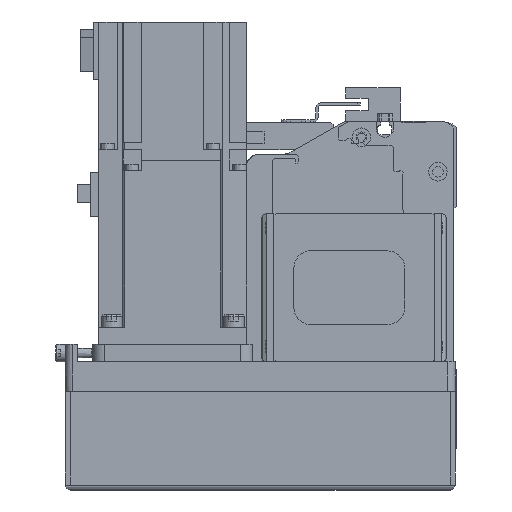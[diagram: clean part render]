
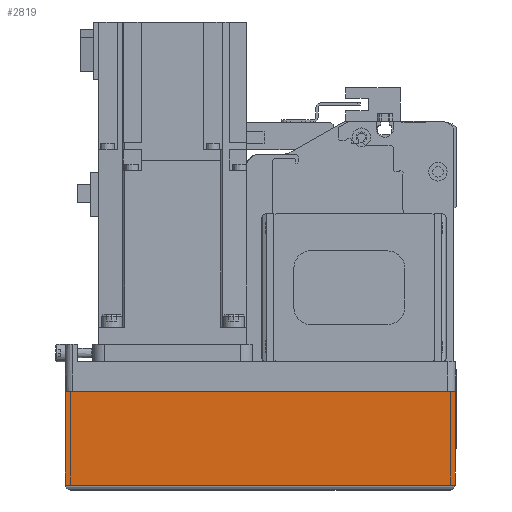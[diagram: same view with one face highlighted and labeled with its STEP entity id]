
A CAD part, left-side view. The second image highlights one B-rep face of the part: STEP entity #2819.
In plain terms, the highlighted planar face has unit normal (-1, 0, 0) as drawn and (0, -1, 0) by its records, which use the part's own axes.
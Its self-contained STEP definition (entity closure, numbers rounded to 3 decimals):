
#2819 = ADVANCED_FACE( '', ( #6229 ), #6230, .T. );
#6229 = FACE_OUTER_BOUND( '', #10105, .T. );
#6230 = PLANE( '', #10106 );
#10105 = EDGE_LOOP( '', ( #18066, #18067, #18068, #18069 ) );
#10106 = AXIS2_PLACEMENT_3D( '', #18070, #18071, #18072 );
#18066 = ORIENTED_EDGE( '', *, *, #24026, .F. );
#18067 = ORIENTED_EDGE( '', *, *, #23767, .F. );
#18068 = ORIENTED_EDGE( '', *, *, #23742, .T. );
#18069 = ORIENTED_EDGE( '', *, *, #24663, .T. );
#18070 = CARTESIAN_POINT( '', ( -158., -39., -12.1 ) );
#18071 = DIRECTION( '', ( 0., -1., 0. ) );
#18072 = DIRECTION( '', ( 0., 0., -1. ) );
#23742 = EDGE_CURVE( '', #29121, #27257, #29123, .T. );
#23767 = EDGE_CURVE( '', #29121, #28899, #29153, .T. );
#24026 = EDGE_CURVE( '', #28899, #29532, #29533, .T. );
#24663 = EDGE_CURVE( '', #27257, #29532, #30362, .T. );
#27257 = VERTEX_POINT( '', #34393 );
#28899 = VERTEX_POINT( '', #36817 );
#29121 = VERTEX_POINT( '', #37169 );
#29123 = LINE( '', #37172, #37173 );
#29153 = LINE( '', #37210, #37211 );
#29532 = VERTEX_POINT( '', #37811 );
#29533 = LINE( '', #37812, #37813 );
#30362 = LINE( '', #39303, #39304 );
#34393 = CARTESIAN_POINT( '', ( -158., -39., -50. ) );
#36817 = CARTESIAN_POINT( '', ( 0., -39., -12.1 ) );
#37169 = CARTESIAN_POINT( '', ( -158., -39., -12.1 ) );
#37172 = CARTESIAN_POINT( '', ( -158., -39., -12.1 ) );
#37173 = VECTOR( '', #43430, 1000. );
#37210 = CARTESIAN_POINT( '', ( -158., -39., -12.1 ) );
#37211 = VECTOR( '', #43459, 1000. );
#37811 = CARTESIAN_POINT( '', ( 0., -39., -50. ) );
#37812 = CARTESIAN_POINT( '', ( 0., -39., -12.1 ) );
#37813 = VECTOR( '', #43777, 1000. );
#39303 = CARTESIAN_POINT( '', ( -158., -39., -50. ) );
#39304 = VECTOR( '', #44392, 1000. );
#43430 = DIRECTION( '', ( 0., 0., -1. ) );
#43459 = DIRECTION( '', ( 1., 0., 0. ) );
#43777 = DIRECTION( '', ( 0., 0., -1. ) );
#44392 = DIRECTION( '', ( 1., 0., 0. ) );
